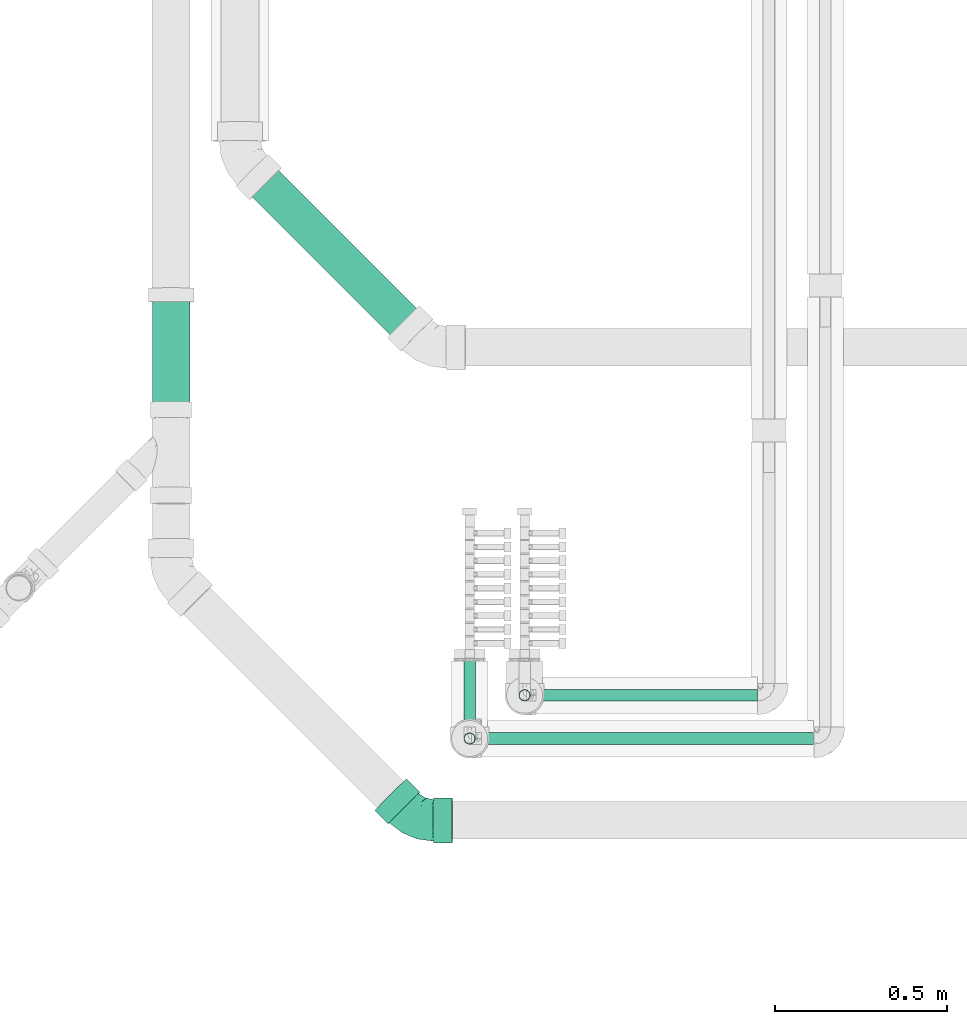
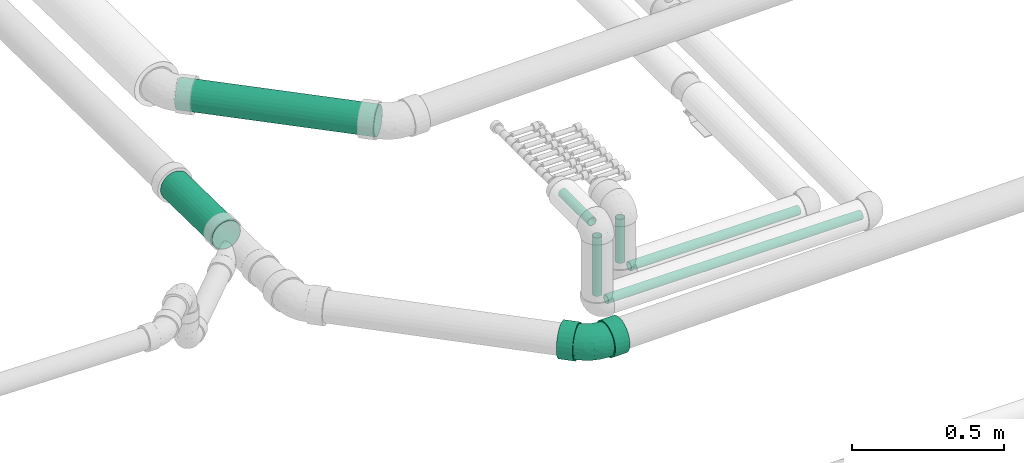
# One storey, part 30 of 83: 7 flow segments, 1 flow fitting.
"""IFC2X3 building model written with IfcOpenShell, lengths in millimetres."""

import ifcopenshell
import ifcopenshell.guid

model = None  # the IFC model being written
_history = None  # IfcOwnerHistory: only IFC2X3 demands one
_inside = {}  # id of a spatial element -> (the spatial element, [elements in it])
_under = {}  # id of a project, library or spatial element -> (it, [spatial elements below it])
_declared = {}  # id of a project -> (the project, [libraries it declares])
_typed = {}  # id of a type object -> (the type object, [elements of that type])
_made_of = {}  # id of a material, layer set ... -> (it, [elements and type objects made of it])


def new_model(schema):
    """Start an empty IFC model of exactly this schema.

    Asked for "IFC4X3", IfcOpenShell would pick the latest addendum, in which some entities
    have other attributes; the version numbers below select the first issue.
    IFC2X3 requires an IfcOwnerHistory on every rooted entity: one is made here for all.
    """
    global model, _history
    if schema == "IFC4X3":
        model = ifcopenshell.file(schema_version=(4, 3, 0, 0))
    else:
        model = ifcopenshell.file(schema=schema)
    _inside.clear()
    _under.clear()
    _declared.clear()
    _typed.clear()
    _made_of.clear()
    _history = None
    if model.schema == "IFC2X3":
        org = make("IfcOrganization", Name="unknown")
        user = make(
            "IfcPersonAndOrganization",
            ThePerson=make("IfcPerson", FamilyName="unknown"),
            TheOrganization=org,
        )
        app = make(
            "IfcApplication",
            ApplicationDeveloper=org,
            Version="unknown",
            ApplicationFullName="unknown",
            ApplicationIdentifier="unknown",
        )
        _history = make(
            "IfcOwnerHistory",
            OwningUser=user,
            OwningApplication=app,
            ChangeAction="ADDED",
            CreationDate=0,
        )
    return model


def make(cls, **values):
    """One entity of the class cls with the attributes given. An attribute that is None is left unset."""
    return model.create_entity(
        cls, **{name: value for name, value in values.items() if value is not None}
    )


def entity(cls, *values):
    """Any entity or typed value of the class cls, its attributes in the order of the schema. None: left unset."""
    e = model.create_entity(cls)
    for i, value in enumerate(values):
        if value is not None:
            e[i] = value
    return e


def rooted(cls, **values):
    """An entity with a GlobalId (a new one), such as an element, a storey or a relation."""
    return make(cls, GlobalId=ifcopenshell.guid.new(), OwnerHistory=_history, **values)


def si_unit(unit_type, name, prefix=None):
    """IfcSIUnit, for example si_unit("LENGTHUNIT", "METRE", prefix="MILLI")."""
    return make("IfcSIUnit", UnitType=unit_type, Prefix=prefix, Name=name)


def converted_unit(unit_type, name, factor, base, dimensions=None, offset=None):
    """IfcConversionBasedUnit, such as the inch: factor (a typed value) times the base unit."""
    return make(
        "IfcConversionBasedUnit"
        if offset is None
        else "IfcConversionBasedUnitWithOffset",
        ConversionOffset=offset,
        Dimensions=None
        if dimensions is None
        else entity("IfcDimensionalExponents", *dimensions),
        UnitType=unit_type,
        Name=name,
        ConversionFactor=make(
            "IfcMeasureWithUnit", ValueComponent=factor, UnitComponent=base
        ),
    )


def derived_unit(unit_type, elements):
    """IfcDerivedUnit: a product of units, each with its exponent."""
    return make(
        "IfcDerivedUnit",
        Elements=[
            make("IfcDerivedUnitElement", Unit=unit, Exponent=power)
            for unit, power in elements
        ],
        UnitType=unit_type,
    )


def assignment(units):
    """IfcUnitAssignment: the units of a project."""
    return None if units is None else make("IfcUnitAssignment", Units=units)


def point(xyz):
    """IfcCartesianPoint."""
    return None if xyz is None else make("IfcCartesianPoint", Coordinates=xyz)


def direction(xyz):
    """IfcDirection."""
    return None if xyz is None else make("IfcDirection", DirectionRatios=xyz)


def frame(location, z_axis=None, x_axis=None):
    """IfcAxis2Placement3D, a coordinate frame: its origin and axes. An axis left out is left unset."""
    return make(
        "IfcAxis2Placement3D",
        Location=point(location),
        Axis=direction(z_axis),
        RefDirection=direction(x_axis),
    )


def frame_2d(location, x_axis=None):
    """IfcAxis2Placement2D, a coordinate frame in the plane: its origin and x axis."""
    return make(
        "IfcAxis2Placement2D", Location=point(location), RefDirection=direction(x_axis)
    )


def origin_with_axes():
    """The frame at (0, 0, 0) with the z axis (0, 0, 1) and the x axis (1, 0, 0) written out."""
    return frame((0.0, 0.0, 0.0), z_axis=(0.0, 0.0, 1.0), x_axis=(1.0, 0.0, 0.0))


def origin_2d_with_axis():
    """The frame at (0, 0) in the plane with the x axis (1, 0) written out."""
    return frame_2d((0.0, 0.0), x_axis=(1.0, 0.0))


def place(relative_to, where):
    """IfcLocalPlacement: puts the frame where relative to a parent placement (None: the world)."""
    return make(
        "IfcLocalPlacement", PlacementRelTo=relative_to, RelativePlacement=where
    )


def context(
    kind, dimensions, precision=None, world=None, true_north=None, identifier=None
):
    """IfcGeometricRepresentationContext, for example the 3D "Model" context."""
    return make(
        "IfcGeometricRepresentationContext",
        ContextIdentifier=identifier,
        ContextType=kind,
        CoordinateSpaceDimension=dimensions,
        Precision=precision,
        WorldCoordinateSystem=world,
        TrueNorth=true_north,
    )


def subcontext(parent, identifier, kind, view, scale=None):
    """IfcGeometricRepresentationSubContext, for example "Body" below "Model"."""
    return make(
        "IfcGeometricRepresentationSubContext",
        ContextIdentifier=identifier,
        ContextType=kind,
        ParentContext=parent,
        TargetScale=scale,
        TargetView=view,
    )


def project(units=None, contexts=None):
    """IfcProject with its units and contexts."""
    return rooted(
        "IfcProject",
        Name="project",
        RepresentationContexts=contexts,
        UnitsInContext=assignment(units),
    )


def spatial(cls, under=None, at=None, **own):
    """A site, building, storey or space (cls), placed at a placement, below another one or the project."""
    s = rooted(cls, ObjectPlacement=at, **own)
    if under is not None:
        _under.setdefault(under.id(), (under, []))[1].append(s)
    return s


def profile(cls, at=None, kind="AREA", **sizes):
    """A parametric profile (cls). Its sizes go by their IFC names, for example OverallWidth=200.0."""
    return make(cls, ProfileType=kind, Position=at, **sizes)


def hollow_circle(**sizes):
    """IfcCircleHollowProfileDef."""
    return profile("IfcCircleHollowProfileDef", **sizes)


def extrude(swept, where, along, depth):
    """IfcExtrudedAreaSolid: the profile swept, set in the frame where, extruded along a direction by depth."""
    return make(
        "IfcExtrudedAreaSolid",
        SweptArea=swept,
        Position=where,
        ExtrudedDirection=direction(along),
        Depth=depth,
    )


def faces_of(points, faces, orient=None, outer=None):
    """IfcFace entities. A face is a list of loops; a loop is a list of indices into points, from 0.

    orient and outer hold one flag for each loop. By default every Orientation is true, the
    first loop of a face is its IfcFaceOuterBound and the others are IfcFaceBound.
    """
    made = []
    for i, loops in enumerate(faces):
        bounds = []
        for j, loop in enumerate(loops):
            is_outer = j == 0 if outer is None else outer[i][j]
            bounds.append(
                make(
                    "IfcFaceOuterBound" if is_outer else "IfcFaceBound",
                    Bound=make("IfcPolyLoop", Polygon=[points[k] for k in loop]),
                    Orientation=True if orient is None else orient[i][j],
                )
            )
        made.append(make("IfcFace", Bounds=bounds))
    return made


def open_shell(faces, orient=None, outer=None):
    """The faces of one IfcOpenShell. surface_model builds it on its shared points."""
    return ("IfcOpenShell", faces, orient, outer)


def surface_model(cls, points, shells):
    """IfcFaceBasedSurfaceModel or IfcShellBasedSurfaceModel (cls): surfaces that need not close."""
    shared = [point(p) for p in points]
    made = [make(c, CfsFaces=faces_of(shared, fs, o, b)) for c, fs, o, b in shells]
    if cls == "IfcFaceBasedSurfaceModel":
        return make(cls, FbsmFaces=made)
    return make(cls, SbsmBoundary=made)


def shape(context_of_items, identifier, shape_type, items):
    """IfcShapeRepresentation: the items that make up one representation, for example the "Body"."""
    return make(
        "IfcShapeRepresentation",
        ContextOfItems=context_of_items,
        RepresentationIdentifier=identifier,
        RepresentationType=shape_type,
        Items=items,
    )


def source(mapping_origin, context_of_items, identifier, shape_type, items):
    """IfcRepresentationMap: a shape defined once, which mapped items show again and again."""
    return make(
        "IfcRepresentationMap",
        MappingOrigin=mapping_origin,
        MappedRepresentation=shape(context_of_items, identifier, shape_type, items),
    )


def transform(
    local_origin,
    x_axis=None,
    y_axis=None,
    z_axis=None,
    scale=None,
    scale2=None,
    scale3=None,
    uniform=True,
):
    """IfcCartesianTransformationOperator3D, or its non-uniform kind. x_axis, y_axis, z_axis: its Axis1, 2, 3."""
    if uniform:
        return make(
            "IfcCartesianTransformationOperator3D",
            Axis1=direction(x_axis),
            Axis2=direction(y_axis),
            LocalOrigin=point(local_origin),
            Scale=scale,
            Axis3=direction(z_axis),
        )
    return make(
        "IfcCartesianTransformationOperator3DnonUniform",
        Axis1=direction(x_axis),
        Axis2=direction(y_axis),
        LocalOrigin=point(local_origin),
        Scale=scale,
        Axis3=direction(z_axis),
        Scale2=scale2,
        Scale3=scale3,
    )


def mapped(mapping_source, mapping_target):
    """IfcMappedItem: shows the shape of a source again, moved by a transform."""
    return make(
        "IfcMappedItem", MappingSource=mapping_source, MappingTarget=mapping_target
    )


def made_of(thing, what):
    """Note that an element or type object is made of a material, layer set ...; save() writes the relation."""
    if what is not None:
        _made_of.setdefault(what.id(), (what, []))[1].append(thing)
    return thing


def type_object(cls, material=None, **own):
    """A type object (cls), such as IfcWallType, which elements share."""
    return made_of(rooted(cls, **own), material)


def element(
    cls,
    number,
    at=None,
    inside=None,
    cuts=None,
    type_object=None,
    material=None,
    context=None,
    identifier="Body",
    shape_type=None,
    held_by="IfcProductDefinitionShape",
    body=None,
    shapes=None,
    **own,
):
    """One element of the class cls, such as IfcWall. Its Tag is "e" and its number.

    at: its placement. inside: the storey or other place that contains it. cuts: it is an
    opening in that element (IfcRelVoidsElement). A single representation is given by context,
    identifier, shape_type and body (its items); several are given by shapes. held_by: the class
    of the entity that holds the representations. save() writes the other relations.
    """
    e = rooted(cls, Tag="e%d" % number, ObjectPlacement=at, **own)
    if body is not None:
        shapes = [shape(context, identifier, shape_type, body)]
    if shapes is not None:
        e.Representation = make(held_by, Representations=shapes)
    if inside is not None:
        _inside.setdefault(inside.id(), (inside, []))[1].append(e)
    if cuts is not None:
        rooted(
            "IfcRelVoidsElement", RelatingBuildingElement=cuts, RelatedOpeningElement=e
        )
    if type_object is not None:
        _typed.setdefault(type_object.id(), (type_object, []))[1].append(e)
    return made_of(e, material)


def aggregate(whole, parts):
    """IfcRelAggregates: a whole, such as a stair, and the parts it consists of."""
    return rooted("IfcRelAggregates", RelatingObject=whole, RelatedObjects=parts)


def save(model, path):
    """Write the relations noted so far, then the file.

    IfcRelAggregates (storeys below a building ...), IfcRelContainedInSpatialStructure (elements
    in a storey), IfcRelDefinesByType, IfcRelAssociatesMaterial and IfcRelDeclares: one each for
    every whole, place, type object, material and project.
    """
    for whole, parts in _under.values():
        aggregate(whole, parts)
    for where, things in _inside.values():
        rooted(
            "IfcRelContainedInSpatialStructure",
            RelatedElements=things,
            RelatingStructure=where,
        )
    for kind, things in _typed.values():
        rooted("IfcRelDefinesByType", RelatedObjects=things, RelatingType=kind)
    for what, things in _made_of.values():
        rooted("IfcRelAssociatesMaterial", RelatedObjects=things, RelatingMaterial=what)
    for by, libraries in _declared.values():
        rooted("IfcRelDeclares", RelatingContext=by, RelatedDefinitions=libraries)
    model.write(path)


model = new_model("IFC2X3")

# Units and contexts
model_context = context("Model", 3, precision=0.01, world=frame((0.0, 4.29681676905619e-09, 0.0)), true_north=direction((4.01073788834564e-13, 1.0)))
plan_context = context("Plan", 3, precision=0.01, world=frame((0.0, 4.29681676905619e-09, 0.0)), true_north=direction((4.01073788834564e-13, 1.0)))
body_context = subcontext(model_context, "Body", "Model", "MODEL_VIEW")
ifc_project = project(units=[converted_unit("PLANEANGLEUNIT", "DEGREE", entity("IfcPositiveLengthMeasure", 0.0174532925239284), si_unit("PLANEANGLEUNIT", "RADIAN"), dimensions=[0, 0, 0, 0, 0, 0, 0]), si_unit("AREAUNIT", "SQUARE_METRE"), si_unit("LENGTHUNIT", "METRE", prefix="MILLI"), si_unit("MASSUNIT", "GRAM", prefix="KILO"), si_unit("POWERUNIT", "WATT"), si_unit("PRESSUREUNIT", "PASCAL"), si_unit("FORCEUNIT", "NEWTON", prefix="KILO"), si_unit("ELECTRICVOLTAGEUNIT", "VOLT"), si_unit("ELECTRICCURRENTUNIT", "AMPERE"), si_unit("THERMODYNAMICTEMPERATUREUNIT", "DEGREE_CELSIUS"), si_unit("TIMEUNIT", "SECOND"), si_unit("VOLUMEUNIT", "CUBIC_METRE"), derived_unit("LINEARVELOCITYUNIT", [(si_unit("LENGTHUNIT", "METRE"), 1), (si_unit("TIMEUNIT", "SECOND"), -1)]), derived_unit("VOLUMETRICFLOWRATEUNIT", [(si_unit("VOLUMEUNIT", "CUBIC_METRE"), 1), (si_unit("TIMEUNIT", "SECOND"), -1)]), derived_unit("THERMALTRANSMITTANCEUNIT", [(si_unit("POWERUNIT", "WATT"), 1), (si_unit("THERMODYNAMICTEMPERATUREUNIT", "KELVIN"), -1), (si_unit("AREAUNIT", "SQUARE_METRE"), -1)]), derived_unit("SOUNDPRESSUREUNIT", [(si_unit("PRESSUREUNIT", "PASCAL"), 1)])], contexts=[model_context, plan_context])

# Site, building, storey
site_placement = place(None, frame((0.0, -4.29681676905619e-09, 0.0), z_axis=(0.0, 0.0, 1.0), x_axis=(1.0, 0.0, 0.0)))
site = spatial("IfcSite", under=ifc_project, at=site_placement, Name="ENGM", CompositionType="ELEMENT")
building_placement = place(site_placement, frame((0.0, 4.29681676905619e-09, 0.0), z_axis=(0.0, 0.0, 1.0), x_axis=(1.0, 0.0, 0.0)))
building = spatial("IfcBuilding", under=site, at=building_placement, Name="TI", CompositionType="ELEMENT")
storey_placement = place(building_placement, frame((0.0, 0.0, 204000.0), z_axis=(0.0, 0.0, 1.0), x_axis=(1.0, 0.0, 0.0)))
storey = spatial("IfcBuildingStorey", under=building, at=storey_placement, Name="Nivå D", CompositionType="ELEMENT", Elevation=204000.0)

# Flow fitting
pipe_fitting_type = type_object("IfcPipeFittingType", Name="magi_sewer_bend_001", PredefinedType="BEND")
shared_shape_1 = source(origin_with_axes(), body_context, "Body", "SurfaceModel", [
    surface_model("IfcShellBasedSurfaceModel", [(-105.11169, -16.95265, -63.26814), (-105.11169, -32.75, -56.72466), (-105.11169, -46.3155, -46.3155), (-105.11169, -63.26814, -16.95265), (-105.11169, 56.72466, -32.75), (-105.11169, -56.72466, -32.75), (-105.11169, -65.5, 0.0), (-105.11169, 16.95265, -63.26814), (-105.11169, 0.0, -65.5), (-105.11169, 32.75, -56.72466), (-105.11169, 46.3155, -46.3155), (-105.11169, 63.26814, -16.95265), (-105.11169, -63.26814, 16.95265), (-105.11169, -56.72466, 32.75), (-105.11169, -46.3155, 46.3155), (-105.11169, 63.26814, 16.95265), (-105.11169, -16.95265, 63.26814), (-105.11169, 0.0, 65.5), (-105.11169, -32.75, 56.72466), (-105.11169, 46.3155, 46.3155), (-105.11169, 56.72466, 32.75), (-105.11169, 65.5, 0.0), (-105.11169, 16.95265, 63.26814), (-105.11169, 32.75, 56.72466), (-50.11169, -16.95265, 63.26814), (-50.11169, 16.95265, 63.26814), (-50.11169, 0.0, 65.5), (-50.11169, -46.3155, 46.3155), (-50.11169, -32.75, 56.72466), (-50.11169, -56.72466, 32.75), (-50.11169, -63.26814, 16.95265), (-50.11169, -63.26814, -16.95265), (-50.11169, 32.75, -56.72466), (-50.11169, -65.5, 0.0), (-50.11169, -16.95265, -63.26814), (-50.11169, -56.72466, -32.75), (-50.11169, -46.3155, -46.3155), (-50.11169, -32.75, -56.72466), (-50.11169, 0.0, -65.5), (-50.11169, 16.95265, -63.26814), (-50.11169, 32.75, 56.72466), (86.31969, 62.32793, 63.26814), (97.48882, 51.15623, 56.72466), (107.07996, 41.56287, 46.3155), (86.31969, 62.32793, -63.26814), (107.07996, 41.56287, -46.3155), (97.48882, 51.15623, -56.72466), (-9.2938, 80.17271, -16.95265), (-10.87178, 81.75106, 0.0), (29.60155, 119.05911, -16.95265), (34.22796, 114.43164, -32.75), (-4.66739, 75.54525, -32.75), (28.02357, 120.63746, 0.0), (-9.2938, 80.17271, 16.95265), (74.33373, 74.31664, 65.5), (35.43839, 35.43024, 65.5), (-50.11169, -30.25, -52.39454), (-50.11169, -42.77996, -42.77996), (-50.11169, -15.65855, -58.43851), (-50.11169, 0.0, -60.5), (-50.11169, -58.43851, -15.65855), (-50.11169, -60.5, 0.0), (-50.11169, -52.39454, -30.25), (-50.11169, 15.65855, 58.43851), (-50.11169, 30.25, 52.39454), (-50.11169, -58.43851, 15.65855), (-50.11169, -52.39454, 30.25), (-50.11169, -42.77996, 42.77996), (-50.11169, -30.25, 52.39454), (-50.11169, -15.65855, 58.43851), (-50.11169, 0.0, 60.5), (72.48266, -1.62256, -30.25), (78.21343, -7.35464, 0.0), (76.75591, -5.89678, -15.65855), (65.68491, 5.17676, -42.77996), (76.75591, -5.89678, 15.65855), (65.68491, 5.17676, 42.77996), (72.48266, -1.62256, 30.25), (56.82591, 14.0378, 52.39454), (24.36739, 46.50378, 58.43851), (35.43839, 35.43024, 60.5), (15.40779, -37.20376, 33.71575), (-13.37979, -34.19359, 46.68447), (-19.52869, -46.27099, 35.42531), (-20.20595, -56.56342, 0.0), (-3.14275, -54.31734, 0.0), (-12.90841, -55.73812, 10.33155), (46.52523, -18.91501, 35.42531), (-23.96888, -22.18524, 55.29409), (6.21199, -14.9995, 54.53203), (-18.05072, -5.82526, 59.69855), (-30.3089, 8.38332, 60.13281), (-23.23918, 25.17567, 56.55885), (-17.18178, 41.48723, 49.39213), (23.34312, -39.60182, 23.84486), (-10.84361, -52.34235, 21.01062), (18.78215, -45.35149, 13.15148), (-1.60588, 72.48303, 30.25), (-5.87912, 76.75726, 15.65855), (-24.91871, 60.16888, 24.85552), (-26.96256, 65.10396, 0.0), (-24.23052, 64.82487, 12.7115), (-7.33665, 78.21512, 0.0), (10.15363, -24.51702, 48.24728), (16.88386, 8.64276, 59.69855), (-26.67255, 50.73823, 38.17936), (32.63604, 1.25747, 55.29409), (5.19187, 65.68372, 42.77996), (1.79864, 36.36872, 56.46793), (18.74175, -45.25396, 0.0), (-18.05072, -5.82526, -59.69855), (-12.90841, -55.73812, -10.33155), (18.78215, -45.35149, -13.15148), (-26.98558, 24.44784, -56.46793), (-27.97808, 12.5178, -59.61973), (-50.11169, 15.65855, -58.43851), (-50.11169, 30.25, -52.39454), (-10.84361, -52.34235, -21.01062), (5.19187, 65.68372, -42.77996), (-17.18178, 41.48723, -49.39213), (-17.01071, 54.73965, -38.17936), (-19.52869, -46.27099, -35.42531), (-13.37979, -34.19359, -46.68447), (-23.96888, -22.18524, -55.29409), (-5.87912, 76.75726, -15.65855), (-1.60588, 72.48303, -30.25), (-24.91871, 60.16888, -24.85551), (6.21199, -14.9995, -54.53203), (15.40779, -37.20376, -33.71575), (-28.6973, 62.97497, -12.7115), (16.88386, 8.64276, -59.69855), (-1.36537, 34.23462, -56.55885), (11.49152, -44.51012, -23.84486), (32.63604, 1.25747, -55.29409), (54.28118, -25.71485, 0.0), (-50.11168, 46.3155, 46.3155), (-50.11168, 63.26814, 16.95265), (-50.11168, 56.72466, 32.75), (-50.11168, 63.26814, -16.95265), (-50.11168, 65.5, 0.0), (-50.11168, 56.72466, -32.75), (-50.11168, 46.3155, -46.3155), (29.60156, 119.0591, 16.95265), (-50.11168, 58.43851, -15.65855), (-50.11168, 52.39454, -30.25), (-50.11168, 42.77996, -42.77996), (-50.11168, 52.39454, 30.25), (-50.11168, 58.43851, 15.65855), (-50.11168, 42.77996, 42.77996), (14.05087, 56.82267, 52.39454), (-50.11168, 60.5, 0.0), (44.67583, -29.34919, 21.01062), (33.63776, -14.72146, 46.68447), (46.50938, 24.35668, 58.43851), (48.53694, -30.29078, 10.33155), (35.43839, 35.43023, -60.5), (46.50938, 24.35668, -58.43851), (14.05087, 56.82267, -52.39454), (44.67584, -29.34919, -21.01062), (33.63776, -14.72146, -46.68447), (46.52521, -18.91503, -35.42531), (48.53694, -30.29078, -10.33155), (15.50688, 27.35775, -60.13281), (23.45244, 47.41894, -63.26814), (62.34779, 86.30533, -63.26814), (35.43839, 35.43023, -65.5), (12.28331, 58.59064, -56.72466), (51.17865, 97.47704, -56.72466), (41.58751, 107.07039, -46.3155), (51.17865, 97.47704, 56.72466), (12.28331, 58.59064, 56.72466), (23.45244, 47.41894, 63.26814), (62.34779, 86.30533, 63.26814), (40.62625, -36.19058, 0.0), (54.28118, -25.71487, 0.0), (24.36739, 46.50377, -58.43851), (-5.75269, 13.89049, 60.28733), (10.93536, 28.63364, 59.61973), (34.22796, 114.43164, 32.75), (41.58751, 107.07041, 46.3155), (2.69216, 68.184, 46.3155), (2.69216, 68.184, -46.3155), (-4.66739, 75.54524, 32.75), (58.59347, 12.26981, 56.72466), (47.42434, 23.44151, 63.26814), (58.59347, 12.26981, -56.72466), (47.42434, 23.44151, -63.26814), (-5.75269, 13.89049, -60.28734), (74.33373, 74.31664, -65.5), (119.06592, 29.57415, 16.95265), (120.6439, 27.9958, 0.0), (114.43952, 34.20162, 32.75), (114.43952, 34.20162, -32.75), (119.06592, 29.57415, -16.95265), (80.17058, -9.31224, -16.95265), (81.74855, -10.89058, 0.0), (80.17058, -9.31224, 16.95265), (75.54417, -4.68477, 32.75), (68.18462, 2.67647, 46.3155), (75.54417, -4.68477, -32.75), (68.18462, 2.67647, -46.3155), (56.82591, 14.0378, -52.39454), (10.15363, -24.51702, -48.24728)], [open_shell([[[0, 1, 2]], [[0, 2, 3]], [[0, 3, 4]], [[3, 2, 5]], [[4, 3, 6]], [[0, 7, 8]], [[0, 9, 7]], [[10, 9, 0]], [[0, 4, 10]], [[6, 11, 4]], [[6, 12, 11]], [[12, 13, 14]], [[11, 14, 15]], [[16, 17, 14]], [[16, 14, 18]], [[15, 14, 17]], [[15, 19, 20]], [[21, 11, 15]], [[19, 22, 23]], [[22, 19, 15]], [[17, 22, 15]], [[11, 12, 14]], [[24, 25, 26]], [[27, 24, 28]], [[27, 29, 30]], [[24, 27, 25]], [[30, 25, 27]], [[31, 32, 33]], [[34, 31, 35]], [[36, 37, 34]], [[36, 34, 35]], [[38, 31, 34]], [[32, 38, 39]], [[32, 31, 38]], [[39, 38, 7]], [[9, 32, 7]], [[32, 39, 7]], [[38, 8, 7]], [[0, 34, 37]], [[36, 1, 37]], [[5, 35, 31]], [[36, 35, 2]], [[3, 31, 33]], [[34, 0, 8]], [[37, 1, 0]], [[36, 2, 1]], [[35, 5, 2]], [[3, 5, 31]], [[33, 6, 3]], [[34, 8, 38]], [[30, 12, 33]], [[29, 13, 30]], [[28, 18, 27]], [[27, 14, 29]], [[30, 13, 12]], [[12, 6, 33]], [[17, 16, 24]], [[16, 18, 28]], [[14, 27, 18]], [[14, 13, 29]], [[24, 16, 28]], [[24, 26, 17]], [[22, 25, 40]], [[25, 22, 17]], [[40, 23, 22]], [[25, 17, 26]], [[41, 42, 43]], [[44, 45, 46]], [[47, 48, 49]], [[50, 51, 49]], [[51, 47, 49]], [[48, 52, 49]], [[53, 52, 48]], [[41, 54, 55]], [[56, 57, 58]], [[57, 59, 58]], [[60, 61, 62]], [[57, 62, 61]], [[57, 61, 59]], [[63, 64, 65]], [[66, 67, 65]], [[68, 65, 67]], [[69, 70, 68]], [[65, 68, 70]], [[70, 63, 65]], [[71, 72, 73]], [[72, 71, 74]], [[75, 76, 77]], [[76, 75, 78]], [[75, 79, 80]], [[81, 82, 83]], [[84, 85, 86]], [[68, 67, 82]], [[77, 76, 87]], [[88, 82, 89]], [[83, 82, 67]], [[69, 68, 88]], [[70, 69, 90]], [[91, 63, 70]], [[64, 92, 93]], [[65, 84, 86]], [[94, 95, 96]], [[67, 66, 83]], [[95, 86, 96]], [[64, 63, 92]], [[97, 98, 99]], [[81, 83, 95]], [[66, 95, 83]], [[91, 92, 63]], [[81, 94, 87]], [[66, 65, 95]], [[100, 101, 102]], [[82, 103, 89]], [[98, 101, 99]], [[89, 104, 90]], [[97, 99, 105]], [[89, 106, 104]], [[97, 105, 107]], [[108, 93, 92]], [[88, 90, 69]], [[107, 105, 93]], [[82, 88, 68]], [[90, 88, 89]], [[65, 61, 84]], [[96, 85, 109]], [[65, 86, 95]], [[85, 96, 86]], [[90, 91, 70]], [[81, 103, 82]], [[102, 101, 98]], [[95, 94, 81]], [[58, 59, 110]], [[85, 111, 112]], [[113, 114, 115]], [[60, 111, 84]], [[116, 113, 115]], [[111, 60, 117]], [[118, 119, 120]], [[117, 62, 121]], [[121, 57, 122]], [[57, 56, 122]], [[60, 62, 117]], [[57, 121, 62]], [[123, 56, 58]], [[124, 125, 126]], [[127, 123, 110]], [[128, 121, 122]], [[102, 124, 129]], [[127, 110, 130]], [[125, 120, 126]], [[123, 122, 56]], [[114, 110, 59]], [[119, 131, 113]], [[111, 117, 112]], [[128, 132, 121]], [[124, 126, 129]], [[125, 118, 120]], [[119, 113, 116]], [[110, 123, 58]], [[122, 123, 127]], [[130, 133, 127]], [[84, 111, 85]], [[84, 61, 60]], [[132, 112, 117]], [[73, 72, 134]], [[59, 115, 114]], [[129, 100, 102]], [[121, 132, 117]], [[85, 112, 109]], [[135, 136, 137]], [[136, 138, 139]], [[138, 11, 139]], [[140, 4, 138]], [[141, 10, 140]], [[138, 4, 11]], [[11, 21, 139]], [[9, 10, 141]], [[10, 4, 140]], [[20, 137, 136]], [[135, 137, 19]], [[15, 136, 139]], [[135, 19, 23]], [[137, 20, 19]], [[15, 20, 136]], [[139, 21, 15]], [[53, 142, 52]], [[143, 144, 145]], [[146, 147, 148]], [[148, 93, 105]], [[149, 107, 93]], [[146, 105, 99]], [[147, 146, 99]], [[101, 150, 147]], [[151, 94, 96]], [[147, 99, 101]], [[79, 149, 108]], [[146, 148, 105]], [[103, 81, 152]], [[93, 108, 149]], [[104, 106, 153]], [[152, 106, 89]], [[96, 154, 151]], [[152, 89, 103]], [[101, 100, 150]], [[155, 156, 130]], [[144, 120, 145]], [[126, 120, 144]], [[133, 130, 156]], [[118, 157, 119]], [[126, 144, 143]], [[131, 119, 157]], [[132, 158, 112]], [[127, 133, 159]], [[160, 128, 159]], [[128, 160, 158]], [[145, 120, 119]], [[161, 112, 158]], [[130, 162, 155]], [[158, 132, 128]], [[163, 164, 165]], [[166, 167, 163]], [[163, 167, 164]], [[168, 167, 166]], [[169, 170, 171]], [[172, 169, 171]], [[150, 143, 147]], [[98, 124, 102]], [[154, 96, 173]], [[174, 154, 173]], [[173, 96, 109]], [[157, 175, 131]], [[162, 175, 155]], [[162, 131, 175]], [[112, 173, 109]], [[112, 161, 173]], [[151, 75, 77]], [[151, 77, 87]], [[87, 94, 151]], [[176, 177, 108]], [[25, 135, 40]], [[135, 25, 136]], [[25, 30, 136]], [[136, 30, 138]], [[33, 141, 140]], [[140, 138, 33]], [[32, 141, 33]], [[33, 138, 30]], [[141, 32, 9]], [[135, 23, 40]], [[178, 52, 142]], [[172, 178, 179]], [[172, 179, 169]], [[168, 164, 167]], [[180, 171, 170]], [[181, 168, 166]], [[50, 168, 181]], [[181, 51, 50]], [[142, 53, 182]], [[180, 178, 182]], [[180, 170, 179]], [[172, 171, 55]], [[182, 178, 142]], [[180, 179, 178]], [[170, 169, 179]], [[183, 42, 184]], [[46, 185, 186]], [[115, 59, 143]], [[116, 115, 143]], [[116, 143, 145]], [[61, 143, 59]], [[61, 65, 143]], [[147, 143, 65]], [[64, 147, 65]], [[148, 147, 64]], [[118, 175, 157]], [[79, 108, 177]], [[90, 176, 91]], [[78, 153, 106]], [[93, 148, 64]], [[80, 177, 104]], [[104, 153, 80]], [[152, 78, 106]], [[81, 87, 152]], [[176, 90, 104]], [[176, 108, 92]], [[104, 177, 176]], [[80, 79, 177]], [[92, 91, 176]], [[143, 129, 126]], [[150, 100, 129]], [[145, 119, 116]], [[187, 162, 130]], [[187, 130, 110]], [[187, 114, 113]], [[110, 114, 187]], [[150, 129, 143]], [[49, 168, 50]], [[186, 184, 171]], [[48, 47, 53]], [[168, 178, 44]], [[178, 172, 44]], [[168, 49, 52]], [[168, 52, 178]], [[168, 188, 164]], [[43, 172, 54]], [[172, 43, 44]], [[189, 190, 43]], [[189, 43, 191]], [[45, 43, 190]], [[188, 168, 44]], [[43, 45, 44]], [[192, 45, 190]], [[190, 193, 192]], [[54, 41, 43]], [[194, 195, 196]], [[197, 194, 196]], [[198, 183, 184]], [[194, 197, 198]], [[194, 198, 184]], [[199, 186, 200]], [[186, 199, 194]], [[200, 186, 185]], [[194, 184, 186]], [[186, 163, 165]], [[186, 171, 180]], [[180, 182, 53]], [[180, 163, 186]], [[163, 180, 53]], [[53, 166, 163]], [[53, 181, 166]], [[53, 47, 51]], [[181, 53, 51]], [[184, 55, 171]], [[164, 188, 165]], [[55, 54, 172]], [[184, 41, 55]], [[197, 191, 198]], [[198, 43, 183]], [[184, 42, 41]], [[190, 189, 196]], [[189, 191, 197]], [[43, 198, 191]], [[43, 42, 183]], [[196, 189, 197]], [[196, 195, 190]], [[193, 194, 199]], [[200, 192, 199]], [[200, 185, 45]], [[44, 186, 165]], [[194, 193, 190]], [[199, 192, 193]], [[200, 45, 192]], [[185, 46, 45]], [[44, 46, 186]], [[165, 188, 44]], [[194, 190, 195]], [[118, 155, 175]], [[155, 125, 72]], [[125, 155, 118]], [[75, 72, 125]], [[156, 74, 201]], [[156, 155, 74]], [[155, 72, 74]], [[125, 124, 75]], [[75, 124, 98]], [[149, 98, 97]], [[98, 149, 75]], [[149, 97, 107]], [[79, 75, 149]], [[75, 153, 78]], [[153, 75, 80]], [[75, 154, 174]], [[76, 78, 152]], [[76, 152, 87]], [[154, 75, 151]], [[174, 72, 75]], [[201, 74, 159]], [[71, 73, 158]], [[202, 128, 122]], [[73, 134, 161]], [[133, 156, 201]], [[74, 160, 159]], [[74, 71, 160]], [[161, 134, 173]], [[159, 202, 127]], [[71, 158, 160]], [[187, 113, 131]], [[159, 133, 201]], [[73, 161, 158]], [[131, 162, 187]], [[128, 202, 159]], [[122, 127, 202]]])]),
])
flow_fitting_placement = place(storey_placement, frame((602894.87387, 692997.82372, 6072.1991), z_axis=(-0.0166559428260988, 0.0069099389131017, 0.999837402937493), x_axis=(0.707008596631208, -0.707008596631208, 0.0166639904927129)))
element("IfcFlowFitting", 1, at=flow_fitting_placement, inside=storey, type_object=pipe_fitting_type, Name="magi_sewer_bend_001", context=body_context, shape_type="MappedRepresentation", body=[
    mapped(shared_shape_1, transform((0.0, 0.0, 0.0), scale=1.0)),
])

# Flow segments
pipe_segment_type_1 = type_object("IfcPipeSegmentType", Name="Stålrør normaltykke", PredefinedType="RIGIDSEGMENT")
shared_shape_2 = source(origin_with_axes(), body_context, "Body", "SweptSolid", [
    extrude(hollow_circle(Radius=16.9, WallThickness=2.0, at=origin_2d_with_axis()), frame((0.0, 0.0, 0.0), z_axis=(1.0, 0.0, 0.0), x_axis=(0.0, 1.0, 0.0)), (0.0, 0.0, 1.0), 642.7),
])
flow_segment_1_placement = place(storey_placement, frame((603886.3909, 693361.26264, 6040.51019999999), z_axis=(-2.29999999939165e-05, 0.0, 0.9999999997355), x_axis=(-0.9999999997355, 0.0, -2.29999999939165e-05)))
element("IfcFlowSegment", 2, at=flow_segment_1_placement, inside=storey, type_object=pipe_segment_type_1, Name="Stålrør normaltykke", context=body_context, shape_type="MappedRepresentation", body=[
    mapped(shared_shape_2, transform((0.0, 0.0, 0.0), scale=1.0)),
])
shared_shape_3 = source(origin_with_axes(), body_context, "Body", "SweptSolid", [
    extrude(hollow_circle(Radius=16.9, WallThickness=2.0, at=origin_2d_with_axis()), frame((0.0, 0.0, 0.0), z_axis=(1.0, 0.0, 0.0), x_axis=(0.0, 1.0, 0.0)), (0.0, 0.0, 1.0), 966.4),
])
flow_segment_2_placement = place(storey_placement, frame((603083.94337, 693235.60884, 6040.5), z_axis=(0.0, 0.0, 1.0), x_axis=(1.0, 0.0, 0.0)))
element("IfcFlowSegment", 3, at=flow_segment_2_placement, inside=storey, type_object=pipe_segment_type_1, Name="Stålrør normaltykke", context=body_context, shape_type="MappedRepresentation", body=[
    mapped(shared_shape_3, transform((0.0, 0.0, 0.0), scale=1.0)),
])
shared_shape_4 = source(origin_with_axes(), body_context, "Body", "SweptSolid", [
    extrude(hollow_circle(Radius=16.9, WallThickness=2.0, at=origin_2d_with_axis()), frame((0.0, 0.0, 0.0), z_axis=(1.0, 0.0, 0.0), x_axis=(0.0, 1.0, 0.0)), (0.0, 0.0, 1.0), 175.5),
])
flow_segment_3_placement = place(storey_placement, frame((603209.87398, 693361.26264, 6074.29783), z_axis=(0.0, -1.0, 0.0), x_axis=(0.0, 0.0, 1.0)))
element("IfcFlowSegment", 4, at=flow_segment_3_placement, inside=storey, type_object=pipe_segment_type_1, Name="Stålrør normaltykke", context=body_context, shape_type="MappedRepresentation", body=[
    mapped(shared_shape_4, transform((0.0, 0.0, 0.0), scale=1.0, scale2=1.0, scale3=1.0, uniform=False)),
])
shared_shape_5 = source(origin_with_axes(), body_context, "Body", "SweptSolid", [
    extrude(hollow_circle(Radius=16.9, WallThickness=2.0, at=origin_2d_with_axis()), frame((0.0, 0.0, 0.0), z_axis=(1.0, 0.0, 0.0), x_axis=(0.0, 1.0, 0.0)), (0.0, 0.0, 1.0), 234.1),
])
flow_segment_4_placement = place(storey_placement, frame((603050.14337, 693235.60884, 6074.29999999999), z_axis=(0.0, -1.0, 0.0), x_axis=(0.0, 0.0, 1.0)))
element("IfcFlowSegment", 5, at=flow_segment_4_placement, inside=storey, type_object=pipe_segment_type_1, Name="Stålrør normaltykke", context=body_context, shape_type="MappedRepresentation", body=[
    mapped(shared_shape_5, transform((0.0, 0.0, 0.0), scale=1.0)),
])
shared_shape_6 = source(origin_with_axes(), body_context, "Body", "SweptSolid", [
    extrude(hollow_circle(Radius=16.9, WallThickness=2.0, at=origin_2d_with_axis()), frame((0.0, 0.0, 0.0), z_axis=(1.0, 0.0, 0.0), x_axis=(0.0, 1.0, 0.0)), (0.0, 0.0, 1.0), 192.0),
])
flow_segment_5_placement = place(storey_placement, frame((603050.14337, 693269.4091, 6342.19860999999), z_axis=(0.0, 0.0, 1.0), x_axis=(0.0, 1.0, 0.0)))
element("IfcFlowSegment", 6, at=flow_segment_5_placement, inside=storey, type_object=pipe_segment_type_1, Name="Stålrør normaltykke", context=body_context, shape_type="MappedRepresentation", body=[
    mapped(shared_shape_6, transform((0.0, 0.0, 0.0), scale=1.0)),
])
pipe_segment_type_2 = type_object("IfcPipeSegmentType", Name="Super-MA", PredefinedType="RIGIDSEGMENT")
shared_shape_7 = source(origin_with_axes(), body_context, "Body", "SweptSolid", [
    extrude(hollow_circle(Radius=55.0, WallThickness=2.0, at=origin_2d_with_axis()), frame((0.0, 0.0, 0.0), z_axis=(1.0, 0.0, 0.0), x_axis=(0.0, 1.0, 0.0)), (0.0, 0.0, 1.0), 677.3),
])
flow_segment_6_placement = place(storey_placement, frame((602417.96801, 694886.75325, 6096.97463000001), z_axis=(-0.706965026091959, -0.707200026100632, -0.00828100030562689), x_axis=(0.706965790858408, -0.706965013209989, 0.0199960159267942)))
element("IfcFlowSegment", 7, at=flow_segment_6_placement, inside=storey, type_object=pipe_segment_type_2, Name="Super-MA", context=body_context, shape_type="MappedRepresentation", body=[
    mapped(shared_shape_7, transform((0.0, 0.0, 0.0), scale=1.0)),
])
pipe_segment_type_3 = type_object("IfcPipeSegmentType", Name="MA", PredefinedType="RIGIDSEGMENT")
shared_shape_8 = source(origin_with_axes(), body_context, "Body", "SweptSolid", [
    extrude(hollow_circle(Radius=55.0, WallThickness=2.0, at=origin_2d_with_axis()), frame((0.0, 0.0, 0.0), z_axis=(1.0, 0.0, 0.0), x_axis=(0.0, 1.0, 0.0)), (0.0, 0.0, 1.0), 337.4),
])
flow_segment_7_placement = place(storey_placement, frame((602182.39912, 694504.79743, 6042.27382), z_axis=(-0.999976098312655, -0.000115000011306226, -0.00691300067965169), x_axis=(-2.2798979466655e-07, -0.999861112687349, 0.0166659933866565)))
element("IfcFlowSegment", 8, at=flow_segment_7_placement, inside=storey, type_object=pipe_segment_type_3, Name="MA", context=body_context, shape_type="MappedRepresentation", body=[
    mapped(shared_shape_8, transform((0.0, 0.0, 0.0), scale=1.0)),
])

save(model, "model.ifc")
